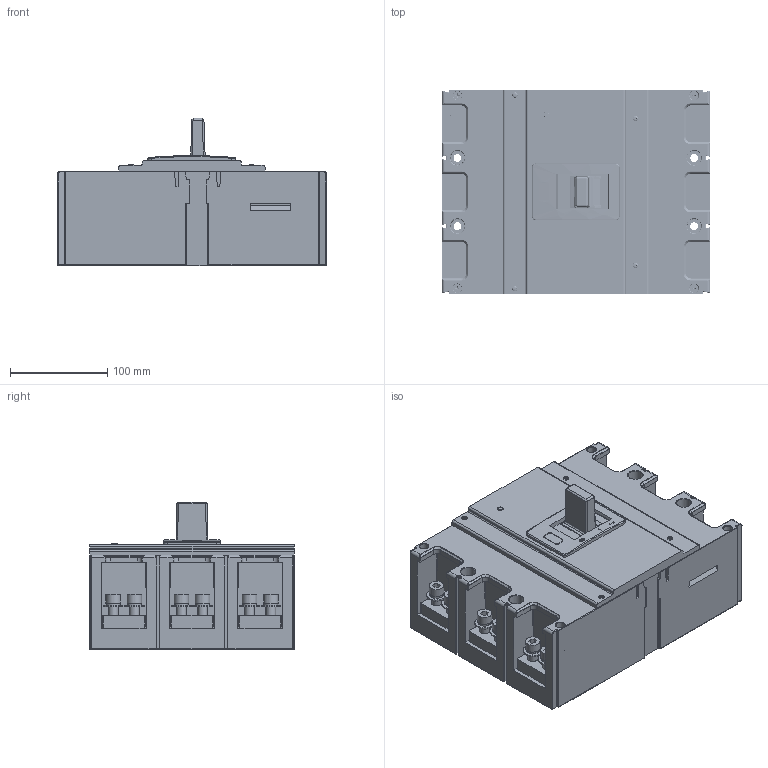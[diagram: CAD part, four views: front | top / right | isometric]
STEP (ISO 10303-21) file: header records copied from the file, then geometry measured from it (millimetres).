
FILE_DESCRIPTION (( 'STEP AP214' ), '1' );
FILE_NAME ('TENGEN_TGM1N-1250 small_3P.STEP', '2026-03-09T10:06:33', ( '' ), ( '' ), 'SwSTEP 2.0', 'SolidWorks 2024', '' );
FILE_SCHEMA (( 'AUTOMOTIVE_DESIGN' ));
Length unit declared in the file: millimetre
Products named in the file (1): TENGEN_TGM1N-1250 small_3P
Bounding box: 275.5 x 210 x 151.31 mm (x, y, z)
Volume: 5304797.1 mm3; surface area: 448772.5 mm2
Topology: 66 solids, 80 shells, 2274 faces, 5627 edges, 3616 vertices
Faces by surface type: plane 1232, cylinder 660, torus 148, bspline 133, cone 78, sphere 23
Full cylindrical faces by diameter (mm): 2.659 x2, 3 x1, 3.15 x4, 3.354 x84, 3.5 x2, 4 x2, 4.2 x4, 4.48 x4, 4.6 x4, 5 x4, 5.5 x8, 5.8 x1, 5.85 x6, 6.3 x1, 7 x8, 7.5 x16, 8 x4, 8.2 x6, 8.5 x4, 8.6 x4, 9 x4, 10 x12, 10.05 x4, 10.5 x30, 11 x6, 13 x6, 14 x18, 14.9 x4, 15 x12, 16.6 x6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
Entity records: 114212 total; most frequent: CARTESIAN_POINT 64347, ORIENTED_EDGE 9906, DIRECTION 9822, EDGE_CURVE 4953, AXIS2_PLACEMENT_3D 3504, VERTEX_POINT 3344, LINE 2814, VECTOR 2814
